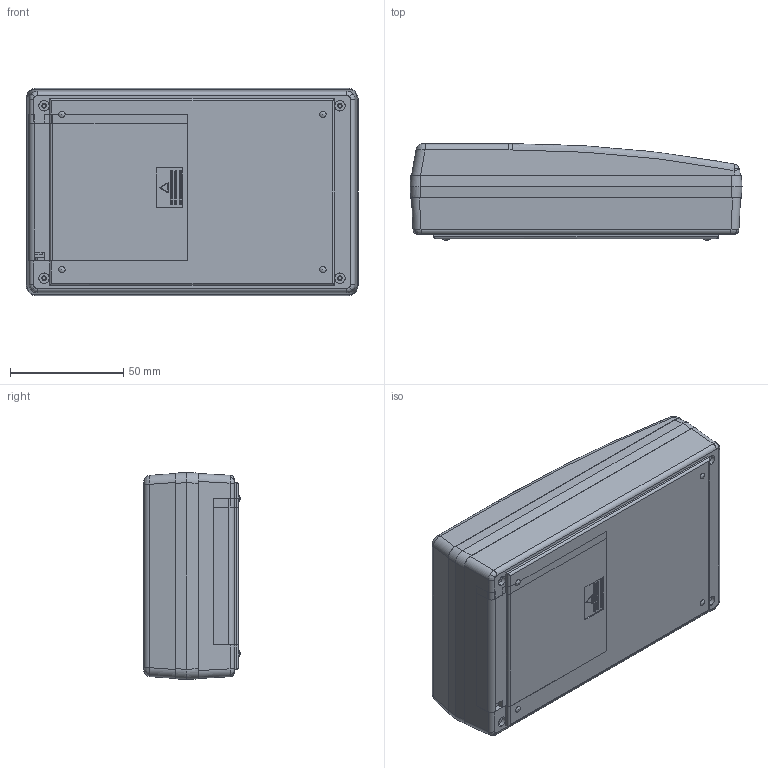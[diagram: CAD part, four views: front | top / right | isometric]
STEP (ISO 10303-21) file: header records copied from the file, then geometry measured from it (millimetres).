
FILE_DESCRIPTION (( 'STEP AP214' ), '1' );
FILE_NAME ('90-63-4A-E-R.STEP', '2020-11-01T21:05:45', ( 'Rudy' ), ( '' ), 'SwSTEP 2.0', 'SolidWorks 2014', '' );
FILE_SCHEMA (( 'AUTOMOTIVE_DESIGN' ));
Length unit declared in the file: inch
Products named in the file (6): 4AAdoor; 90-Top Sloped Recessed; 90-4AA Deep; 90-63-4A-E-R; 90 PCB 29V-4AA; 90 expander
Assembly tree (5 placements, depth 2):
  90-63-4A-E-R
    90-4AA Deep
    90-Top Sloped Recessed
    4AAdoor
    90 expander
    90 PCB 29V-4AA
Bounding box: 146.8 x 42.6 x 91.6 mm (x, y, z)
Volume: 143949.2 mm3; surface area: 124634 mm2
Topology: 5 solids, 5 shells, 839 faces, 2286 edges, 1477 vertices
Faces by surface type: plane 555, cylinder 179, cone 52, torus 24, bspline 19, sphere 10
Entity records: 26859 total; most frequent: CARTESIAN_POINT 5544, ORIENTED_EDGE 4532, DIRECTION 4203, EDGE_CURVE 2266, VECTOR 1643, LINE 1643, VERTEX_POINT 1469, AXIS2_PLACEMENT_3D 1280
